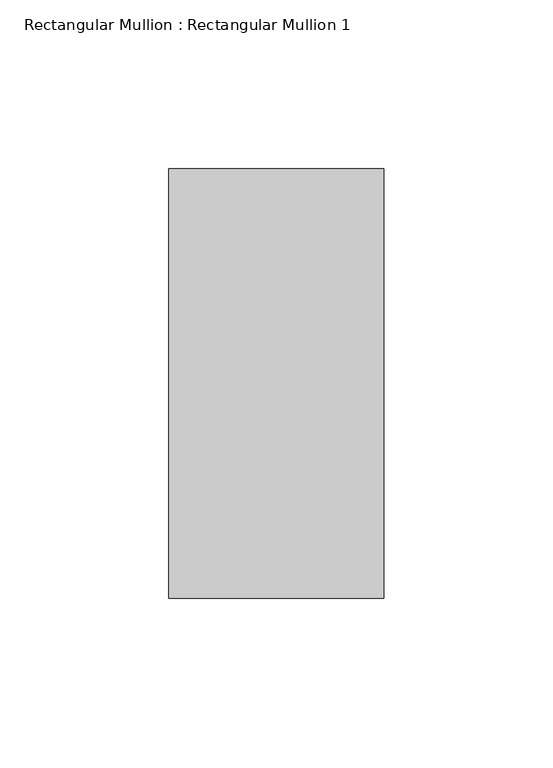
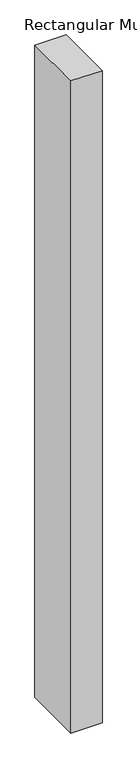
"""IFC4 building model written with IfcOpenShell, lengths in millimetres: member geometry, Rectangular Mullion : Rectangular Mullion 1."""

from ifc_helpers import new_model, si_unit, frame, origin, place, context, project, spatial, polyline, outline, extrude, source, transform, mapped, element, save


def rectangular_mullion_rectangular_mullion_1_6815c58f(model_context):
    return source(origin(), model_context, "Body", "SweptSolid", [
        extrude(outline(polyline([(0.0, 63.5), (0.0, -63.5), (-63.5, -63.5), (-63.5, 63.5), (0.0, 63.5)])), frame((0.0, 0.0, -1404.75), z_axis=(0.0, 0.0, 1.0), x_axis=(1.0, 0.0, 0.0)), (0.0, 0.0, 1.0), 1404.75),
    ])


if __name__ == "__main__":
    model = new_model("IFC4")
    model_context = context("Model", 3, world=origin())
    ifc_project = project(units=[si_unit("LENGTHUNIT", "METRE", prefix="MILLI")], contexts=[model_context])
    site = spatial("IfcSite", under=ifc_project)
    building = spatial("IfcBuilding", under=site)
    placement = place(None, origin())
    rectangular_mullion_rectangular_mullion_1_shape = rectangular_mullion_rectangular_mullion_1_6815c58f(model_context)
    element("IfcMember", 1, ObjectType="Rectangular Mullion : Rectangular Mullion 1", at=placement, inside=building, context=model_context, shape_type="MappedRepresentation", body=[
        mapped(rectangular_mullion_rectangular_mullion_1_shape, transform((0.0, 0.0, 0.0), x_axis=(1.0, 0.0, 0.0), y_axis=(0.0, 1.0, 0.0), z_axis=(0.0, 0.0, 1.0))),
    ])
    save(model, "model.ifc")
